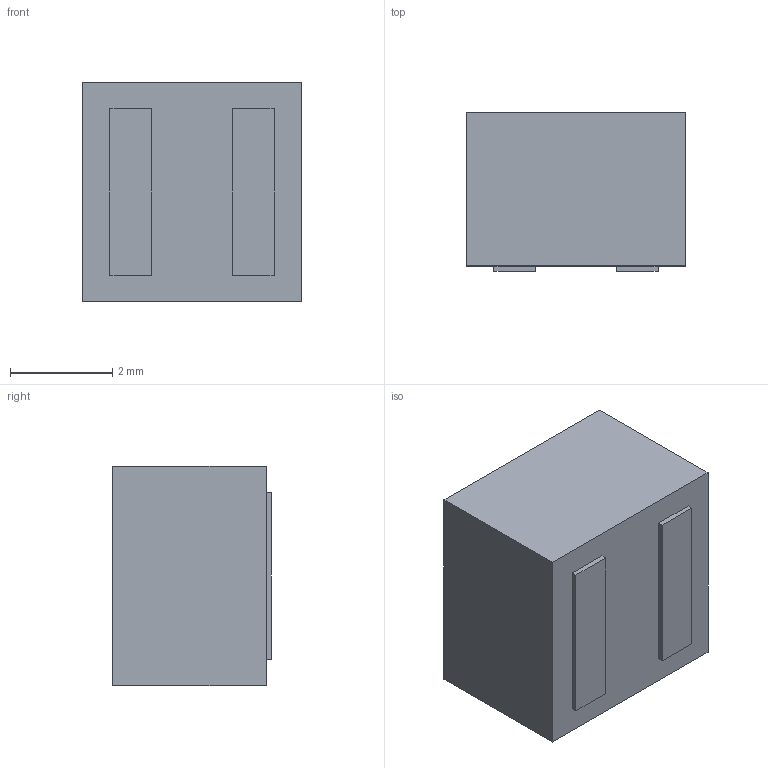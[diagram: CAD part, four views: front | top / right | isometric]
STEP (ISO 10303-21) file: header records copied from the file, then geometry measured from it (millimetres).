
FILE_DESCRIPTION (( 'STEP AP214' ), '1' );
FILE_NAME ('E35613D5-8829-4753-94B3-82B7EFFAF213.STEP', '2025-04-05T14:41:15', ( '' ), ( '' ), 'SwSTEP 2.0', 'SolidWorks 2022', '' );
FILE_SCHEMA (( 'AUTOMOTIVE_DESIGN' ));
Length unit declared in the file: millimetre
Products named in the file (1): E35613D5-8829-4753-94B3-82B7EFFAF213
Bounding box: 4.3 x 3.1 x 4.3 mm (x, y, z)
Volume: 56 mm3; surface area: 90.2 mm2
Topology: 1 solids, 1 shells, 84 faces, 225 edges, 150 vertices
Faces by surface type: plane 51, bspline 33
Entity records: 3649 total; most frequent: CARTESIAN_POINT 1561, ORIENTED_EDGE 450, DIRECTION 263, EDGE_CURVE 225, LINE 159, VECTOR 159, VERTEX_POINT 150, EDGE_LOOP 91
